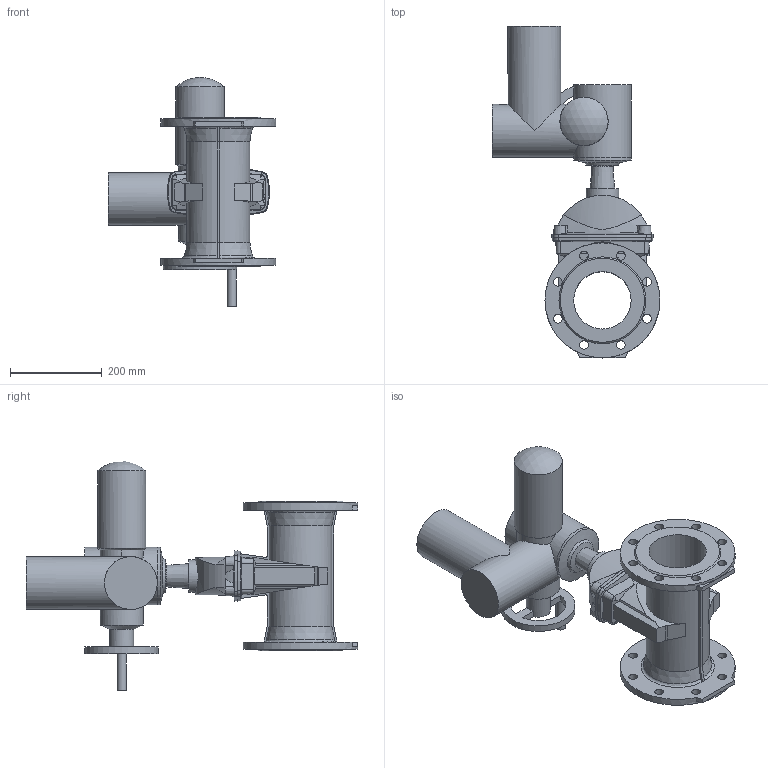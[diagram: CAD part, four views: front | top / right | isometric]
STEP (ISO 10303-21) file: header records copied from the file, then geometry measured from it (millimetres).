
FILE_DESCRIPTION (( 'STEP AP203' ), '1' );
FILE_NAME ('O_15_72_DN125_X1XXX099_SA07.6_AA0.step', '2017-03-20T12:48:32', ( 'Windows User' ), ( 'AVK' ), 'SwSTEP 2.0', 'SolidWorks 2012', '' );
FILE_SCHEMA (( 'CONFIG_CONTROL_DESIGN' ));
Length unit declared in the file: inch
Products named in the file (1): O_15_72_DN125_X1XXX099_SA07.6_AA0
Bounding box: 365 x 722 x 498.55 mm (x, y, z)
Volume: 12962443 mm3; surface area: 894653 mm2
Topology: 1 solids, 1 shells, 283 faces, 806 edges, 530 vertices
Faces by surface type: plane 134, cone 58, cylinder 47, bspline 39, sphere 3, torus 2
Full cylindrical faces by diameter (mm): 19 x16, 20 x1, 52.112 x1, 71 x1, 93.905 x1, 105 x1, 115 x2, 125 x3, 160 x1, 250 x2
Entity records: 10553 total; most frequent: CARTESIAN_POINT 3698, ORIENTED_EDGE 1464, DIRECTION 1278, EDGE_CURVE 732, VERTEX_POINT 500, AXIS2_PLACEMENT_3D 443, VECTOR 392, LINE 392
